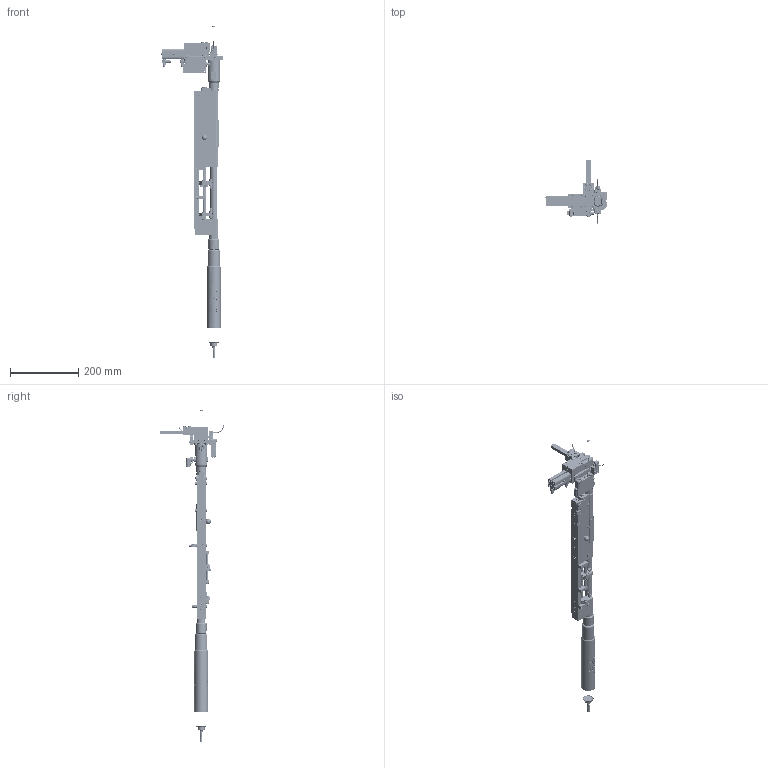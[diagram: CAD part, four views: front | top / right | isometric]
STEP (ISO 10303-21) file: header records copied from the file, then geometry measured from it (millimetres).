
FILE_DESCRIPTION(/* description */ ('© Copyright 2019 – Urheberrechtshinweis Diese CAD-Daten sind urheberrechtlich geschützt. Das Urheberrecht liegt, soweit nicht ausdrücklich anders gekennzeichnet, bei Stöger Automation GmbH. Bitte fragen Sie uns, falls Sie die CAD-Daten vervielfältigen oder','CAx-IF Rec.Pracs.---Representation and Presentation of Product Manufacturing Information (PMI)---4.0---2014-10-13'),/* implementation_level */ '2;1');
FILE_NAME(/* name */ 'H:\00_0 Arbeiten für Marketing\581280\3D_Step_file_SEM-V 20-581280.stp',/* time_stamp */ '2020-09-03T14:49:31+02:00',/* author */ ('Stöger Automation GmbH'),/* organization */ ('Stöger Automation GmbH'),/* preprocessor_version */ 'ST-DEVELOPER v17',/* originating_system */ 'Autodesk Inventor 2018',/* authorisation */ '');
FILE_SCHEMA (('AP242_MANAGED_MODEL_BASED_3D_ENGINEERING_MIM_LF { 1 0 10303 442 1 1 4 }'));
Products named in the file (1): 581280
Bounding box: 182 x 187.7 x 974.22 mm (x, y, z)
Volume: 908374.6 mm3; surface area: 364459.8 mm2
Topology: 18 solids, 98 shells, 4931 faces, 13216 edges, 8803 vertices
Faces by surface type: plane 2589, cylinder 966, bspline 785, cone 392, torus 155, sphere 44
Full cylindrical faces by diameter (mm): 1 x3, 1.2 x1, 1.5 x2, 1.8 x2, 2 x4, 2.2 x2, 2.3 x2, 2.38 x2, 2.4 x3, 2.42 x2, 2.459 x2, 2.5 x5, 3 x9, 3.02 x2, 3.1 x2, 3.141 x5, 3.242 x38, 3.6 x1, 3.8 x5, 4 x36, 4.019 x2, 4.1 x1, 4.134 x20, 4.2 x5, 4.3 x5, 4.4 x1, 4.5 x21, 4.917 x20, 5 x12, 5.02 x2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
Entity records: 335850 total; most frequent: CARTESIAN_POINT 213131, ORIENTED_EDGE 26262, DIRECTION 21890, EDGE_CURVE 13131, VERTEX_POINT 8801, AXIS2_PLACEMENT_3D 7791, LINE 6308, VECTOR 6308
